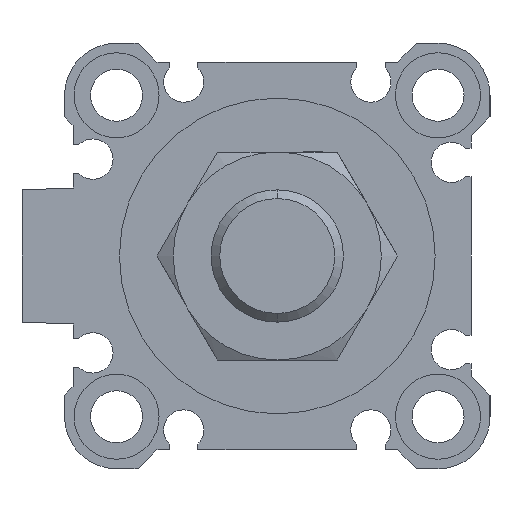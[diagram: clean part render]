
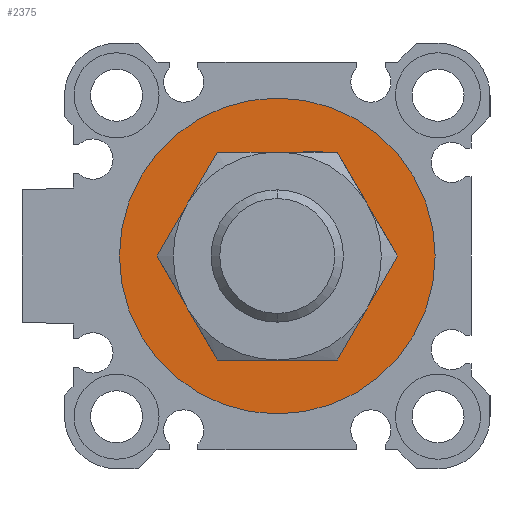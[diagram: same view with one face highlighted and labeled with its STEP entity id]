
A CAD part, left-side view. The second image highlights one B-rep face of the part: STEP entity #2375.
In plain terms, the highlighted planar face has unit normal (-1, 0, 0).
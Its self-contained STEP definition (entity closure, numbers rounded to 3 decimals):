
#65 = DIRECTION ( 'NONE',  ( 0., 0., -1. ) ) ;
#81 = EDGE_CURVE ( 'NONE', #4461, #1616, #3038, .T. ) ;
#176 = CARTESIAN_POINT ( 'NONE',  ( 2.1, 0., 0. ) ) ;
#384 = ORIENTED_EDGE ( 'NONE', *, *, #3774, .T. ) ;
#453 = AXIS2_PLACEMENT_3D ( 'NONE', #4492, #3317, #3818 ) ;
#580 = EDGE_LOOP ( 'NONE', ( #4501, #6541 ) ) ;
#590 = CIRCLE ( 'NONE', #3894, 16.7 ) ;
#655 = CARTESIAN_POINT ( 'NONE',  ( 2.1, 0., 0. ) ) ;
#815 = AXIS2_PLACEMENT_3D ( 'NONE', #655, #5036, #65 ) ;
#933 = CIRCLE ( 'NONE', #815, 10.5 ) ;
#1148 = FACE_BOUND ( 'NONE', #4472, .T. ) ;
#1410 = ORIENTED_EDGE ( 'NONE', *, *, #81, .T. ) ;
#1456 = EDGE_CURVE ( 'NONE', #2672, #4586, #3510, .T. ) ;
#1616 = VERTEX_POINT ( 'NONE', #4889 ) ;
#2113 = CARTESIAN_POINT ( 'NONE',  ( 2.1, 0., -16.7 ) ) ;
#2329 = DIRECTION ( 'NONE',  ( 1., 0., 0. ) ) ;
#2375 = ADVANCED_FACE ( 'NONE', ( #4918, #1148 ), #4422, .F. ) ;
#2672 = VERTEX_POINT ( 'NONE', #2113 ) ;
#2780 = DIRECTION ( 'NONE',  ( 1., 0., 0. ) ) ;
#2906 = CARTESIAN_POINT ( 'NONE',  ( 2.1, 0., -10.5 ) ) ;
#3038 = CIRCLE ( 'NONE', #3381, 10.5 ) ;
#3054 = CARTESIAN_POINT ( 'NONE',  ( 2.1, 0., 16.7 ) ) ;
#3317 = DIRECTION ( 'NONE',  ( 1., 0., 0. ) ) ;
#3381 = AXIS2_PLACEMENT_3D ( 'NONE', #6608, #2780, #5964 ) ;
#3510 = CIRCLE ( 'NONE', #6771, 16.7 ) ;
#3774 = EDGE_CURVE ( 'NONE', #1616, #4461, #933, .T. ) ;
#3818 = DIRECTION ( 'NONE',  ( 0., 1., 0. ) ) ;
#3894 = AXIS2_PLACEMENT_3D ( 'NONE', #4541, #4680, #4601 ) ;
#3944 = EDGE_CURVE ( 'NONE', #4586, #2672, #590, .T. ) ;
#4012 = DIRECTION ( 'NONE',  ( 0., 0., -1. ) ) ;
#4422 = PLANE ( 'NONE',  #453 ) ;
#4461 = VERTEX_POINT ( 'NONE', #2906 ) ;
#4472 = EDGE_LOOP ( 'NONE', ( #384, #1410 ) ) ;
#4492 = CARTESIAN_POINT ( 'NONE',  ( 2.1, 0., 0. ) ) ;
#4501 = ORIENTED_EDGE ( 'NONE', *, *, #3944, .F. ) ;
#4541 = CARTESIAN_POINT ( 'NONE',  ( 2.1, 0., 0. ) ) ;
#4586 = VERTEX_POINT ( 'NONE', #3054 ) ;
#4601 = DIRECTION ( 'NONE',  ( 0., 0., -1. ) ) ;
#4680 = DIRECTION ( 'NONE',  ( 1., 0., 0. ) ) ;
#4889 = CARTESIAN_POINT ( 'NONE',  ( 2.1, 0., 10.5 ) ) ;
#4918 = FACE_OUTER_BOUND ( 'NONE', #580, .T. ) ;
#5036 = DIRECTION ( 'NONE',  ( 1., 0., 0. ) ) ;
#5964 = DIRECTION ( 'NONE',  ( 0., 0., -1. ) ) ;
#6541 = ORIENTED_EDGE ( 'NONE', *, *, #1456, .F. ) ;
#6608 = CARTESIAN_POINT ( 'NONE',  ( 2.1, 0., 0. ) ) ;
#6771 = AXIS2_PLACEMENT_3D ( 'NONE', #176, #2329, #4012 ) ;
